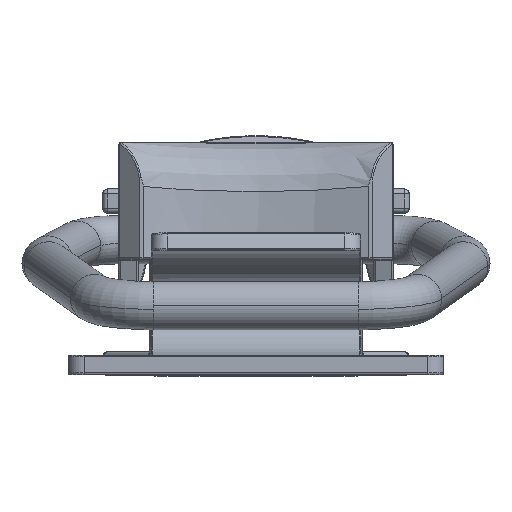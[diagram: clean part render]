
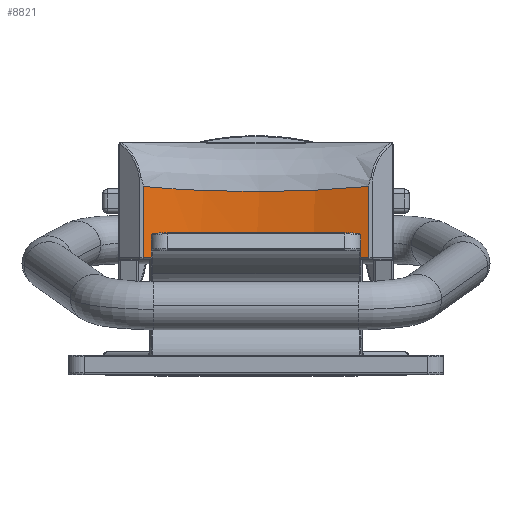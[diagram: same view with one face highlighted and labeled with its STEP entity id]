
A CAD part, top view. The second image highlights one B-rep face of the part: STEP entity #8821.
In plain terms, the highlighted cylindrical face has radius 21.02 mm (diameter 42.04 mm), a partial arc.
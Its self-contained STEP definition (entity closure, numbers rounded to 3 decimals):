
#59 = EDGE_CURVE ( 'NONE', #5710, #10239, #8943, .T. ) ;
#344 = CARTESIAN_POINT ( 'NONE',  ( -7., 0.9, 6.15 ) ) ;
#980 = B_SPLINE_CURVE_WITH_KNOTS ( 'NONE', 3,
 ( #6250, #1670, #5227, #2703, #11170, #1519, #7679, #10061, #11088, #4223, #13767, #6570, #9919, #344 ),
 .UNSPECIFIED., .F., .F.,
 ( 4, 2, 2, 2, 2, 2, 4 ),
 ( 0., 0.002, 0.004, 0.007, 0.009, 0.011, 0.014 ),
 .UNSPECIFIED. ) ;
#1108 = EDGE_CURVE ( 'NONE', #5710, #12283, #980, .T. ) ;
#1318 = CIRCLE ( 'NONE', #9400, 21.02 ) ;
#1358 = DIRECTION ( 'NONE',  ( 0., 0., 1. ) ) ;
#1519 = CARTESIAN_POINT ( 'NONE',  ( 2.383, 0.607, 5.052 ) ) ;
#1670 = CARTESIAN_POINT ( 'NONE',  ( 6.436, 0.847, 5.951 ) ) ;
#2058 = CARTESIAN_POINT ( 'NONE',  ( 0., -3.53, 25.97 ) ) ;
#2536 = DIRECTION ( 'NONE',  ( 0., 1., 0. ) ) ;
#2637 = EDGE_LOOP ( 'NONE', ( #9183, #2641, #6733, #10900 ) ) ;
#2641 = ORIENTED_EDGE ( 'NONE', *, *, #9054, .T. ) ;
#2703 = CARTESIAN_POINT ( 'NONE',  ( 4.712, 0.72, 5.477 ) ) ;
#4223 = CARTESIAN_POINT ( 'NONE',  ( -2.385, 0.614, 5.077 ) ) ;
#5227 = CARTESIAN_POINT ( 'NONE',  ( 5.863, 0.8, 5.776 ) ) ;
#5685 = DIRECTION ( 'NONE',  ( 0., -1., 0. ) ) ;
#5710 = VERTEX_POINT ( 'NONE', #14185 ) ;
#5869 = VERTEX_POINT ( 'NONE', #11546 ) ;
#6250 = CARTESIAN_POINT ( 'NONE',  ( 7., 0.9, 6.15 ) ) ;
#6324 = DIRECTION ( 'NONE',  ( 0., -1., 0. ) ) ;
#6517 = VECTOR ( 'NONE', #6324, 1000. ) ;
#6570 = CARTESIAN_POINT ( 'NONE',  ( -4.723, 0.714, 5.453 ) ) ;
#6733 = ORIENTED_EDGE ( 'NONE', *, *, #59, .F. ) ;
#7647 = VECTOR ( 'NONE', #11126, 1000. ) ;
#7679 = CARTESIAN_POINT ( 'NONE',  ( 1.2, 0.58, 4.95 ) ) ;
#7977 = DIRECTION ( 'NONE',  ( 0., 0., 1. ) ) ;
#8620 = FACE_OUTER_BOUND ( 'NONE', #2637, .T. ) ;
#8676 = CARTESIAN_POINT ( 'NONE',  ( -7., -7.221, 6.15 ) ) ;
#8821 = ADVANCED_FACE ( 'NONE', ( #8620 ), #13366, .F. ) ;
#8943 = LINE ( 'NONE', #14650, #6517 ) ;
#9054 = EDGE_CURVE ( 'NONE', #5869, #10239, #1318, .T. ) ;
#9183 = ORIENTED_EDGE ( 'NONE', *, *, #12109, .F. ) ;
#9400 = AXIS2_PLACEMENT_3D ( 'NONE', #2058, #5685, #7977 ) ;
#9919 = CARTESIAN_POINT ( 'NONE',  ( -5.871, 0.794, 5.751 ) ) ;
#9955 = LINE ( 'NONE', #8676, #7647 ) ;
#10061 = CARTESIAN_POINT ( 'NONE',  ( -0.6, 0.58, 4.95 ) ) ;
#10239 = VERTEX_POINT ( 'NONE', #10736 ) ;
#10736 = CARTESIAN_POINT ( 'NONE',  ( 7., -3.53, 6.15 ) ) ;
#10900 = ORIENTED_EDGE ( 'NONE', *, *, #1108, .T. ) ;
#11088 = CARTESIAN_POINT ( 'NONE',  ( -1.199, 0.587, 4.976 ) ) ;
#11126 = DIRECTION ( 'NONE',  ( 0., 1., 0. ) ) ;
#11170 = CARTESIAN_POINT ( 'NONE',  ( 4.133, 0.687, 5.352 ) ) ;
#11546 = CARTESIAN_POINT ( 'NONE',  ( -7., -3.53, 6.15 ) ) ;
#12108 = CARTESIAN_POINT ( 'NONE',  ( 0., -7.221, 25.97 ) ) ;
#12109 = EDGE_CURVE ( 'NONE', #5869, #12283, #9955, .T. ) ;
#12283 = VERTEX_POINT ( 'NONE', #15002 ) ;
#12673 = AXIS2_PLACEMENT_3D ( 'NONE', #12108, #2536, #1358 ) ;
#13366 = CYLINDRICAL_SURFACE ( 'NONE', #12673, 21.02 ) ;
#13767 = CARTESIAN_POINT ( 'NONE',  ( -2.973, 0.634, 5.153 ) ) ;
#14185 = CARTESIAN_POINT ( 'NONE',  ( 7., 0.9, 6.15 ) ) ;
#14650 = CARTESIAN_POINT ( 'NONE',  ( 7., -7.221, 6.15 ) ) ;
#15002 = CARTESIAN_POINT ( 'NONE',  ( -7., 0.9, 6.15 ) ) ;
